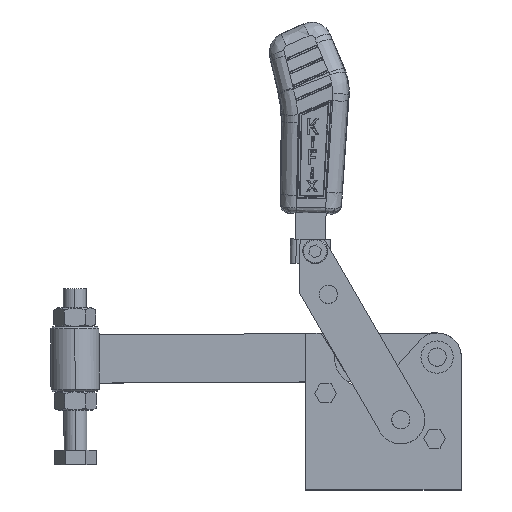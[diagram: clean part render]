
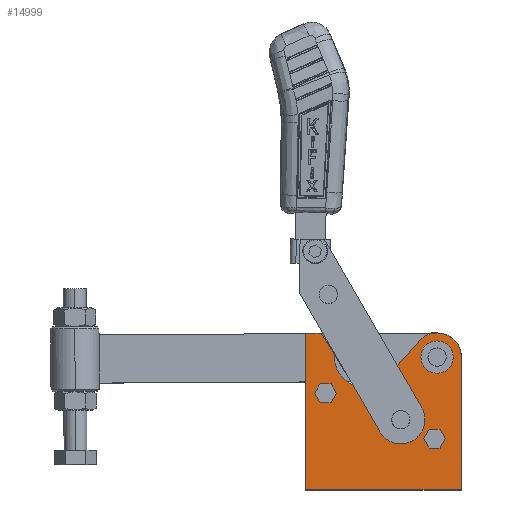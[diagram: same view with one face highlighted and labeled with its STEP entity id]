
A CAD part, top view. The second image highlights one B-rep face of the part: STEP entity #14999.
In plain terms, the highlighted planar face has unit normal (0, 0, 1).
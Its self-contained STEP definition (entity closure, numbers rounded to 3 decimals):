
#366 = CIRCLE ( 'NONE', #22885, 4.8 ) ;
#542 = DIRECTION ( 'NONE',  ( 1., 0., 0. ) ) ;
#810 = CARTESIAN_POINT ( 'NONE',  ( -33.32, 50.8, 0. ) ) ;
#1191 = AXIS2_PLACEMENT_3D ( 'NONE', #6595, #23624, #9072 ) ;
#2266 = ORIENTED_EDGE ( 'NONE', *, *, #2788, .F. ) ;
#2788 = EDGE_CURVE ( 'NONE', #28528, #9003, #16974, .T. ) ;
#2813 = VERTEX_POINT ( 'NONE', #18615 ) ;
#2977 = CARTESIAN_POINT ( 'NONE',  ( -40.75, 82.5, 0. ) ) ;
#3336 = EDGE_CURVE ( 'NONE', #13658, #30076, #20785, .T. ) ;
#3601 = CARTESIAN_POINT ( 'NONE',  ( -26.82, 50.8, 0. ) ) ;
#4448 = AXIS2_PLACEMENT_3D ( 'NONE', #19026, #4456, #21492 ) ;
#4456 = DIRECTION ( 'NONE',  ( 0., 0., 1. ) ) ;
#4719 = CARTESIAN_POINT ( 'NONE',  ( 9.5, 36.85, 0. ) ) ;
#5321 = PLANE ( 'NONE',  #5683 ) ;
#5366 = AXIS2_PLACEMENT_3D ( 'NONE', #21084, #6506, #23532 ) ;
#5418 = EDGE_LOOP ( 'NONE', ( #21822, #7134, #13513, #24304, #8222, #11439, #5809, #27750 ) ) ;
#5683 = AXIS2_PLACEMENT_3D ( 'NONE', #19900, #15141, #542 ) ;
#5772 = VERTEX_POINT ( 'NONE', #10043 ) ;
#5782 = DIRECTION ( 'NONE',  ( 0., 0., 1. ) ) ;
#5809 = ORIENTED_EDGE ( 'NONE', *, *, #29720, .T. ) ;
#6006 = ORIENTED_EDGE ( 'NONE', *, *, #22079, .F. ) ;
#6094 = LINE ( 'NONE', #24020, #11824 ) ;
#6291 = DIRECTION ( 'NONE',  ( 0., 0., 1. ) ) ;
#6506 = DIRECTION ( 'NONE',  ( 0., 0., 1. ) ) ;
#6595 = CARTESIAN_POINT ( 'NONE',  ( 28.55, 69.85, 0. ) ) ;
#6609 = CARTESIAN_POINT ( 'NONE',  ( 20.05, 69.85, 0. ) ) ;
#7032 = CARTESIAN_POINT ( 'NONE',  ( 28.55, 69.85, 0. ) ) ;
#7134 = ORIENTED_EDGE ( 'NONE', *, *, #7586, .T. ) ;
#7186 = DIRECTION ( 'NONE',  ( 1., 0., 0. ) ) ;
#7586 = EDGE_CURVE ( 'NONE', #28060, #30776, #31304, .T. ) ;
#7732 = VERTEX_POINT ( 'NONE', #6609 ) ;
#7904 = LINE ( 'NONE', #24558, #14383 ) ;
#7929 = LINE ( 'NONE', #8629, #20090 ) ;
#8076 = CARTESIAN_POINT ( 'NONE',  ( -9.55, 69.85, 0. ) ) ;
#8079 = CARTESIAN_POINT ( 'NONE',  ( -40.75, 0., 0. ) ) ;
#8222 = ORIENTED_EDGE ( 'NONE', *, *, #26795, .T. ) ;
#8273 = CARTESIAN_POINT ( 'NONE',  ( 14.3, 36.85, 0. ) ) ;
#8535 = CARTESIAN_POINT ( 'NONE',  ( 9.5, 36.85, 0. ) ) ;
#8629 = CARTESIAN_POINT ( 'NONE',  ( -41.25, 0., 0. ) ) ;
#8667 = DIRECTION ( 'NONE',  ( 0., 0., 1. ) ) ;
#9003 = VERTEX_POINT ( 'NONE', #15504 ) ;
#9035 = CARTESIAN_POINT ( 'NONE',  ( 19.023, 78.248, 0. ) ) ;
#9072 = DIRECTION ( 'NONE',  ( 1., 0., 0. ) ) ;
#9106 = FACE_OUTER_BOUND ( 'NONE', #5418, .T. ) ;
#9497 = DIRECTION ( 'NONE',  ( 1., 0., 0. ) ) ;
#9847 = FACE_BOUND ( 'NONE', #26025, .T. ) ;
#9952 = ORIENTED_EDGE ( 'NONE', *, *, #18792, .F. ) ;
#9991 = LINE ( 'NONE', #9035, #21418 ) ;
#10043 = CARTESIAN_POINT ( 'NONE',  ( -32.35, 82.5, 0. ) ) ;
#10163 = EDGE_LOOP ( 'NONE', ( #12785, #21225 ) ) ;
#10212 = EDGE_CURVE ( 'NONE', #9003, #28528, #16445, .T. ) ;
#10523 = DIRECTION ( 'NONE',  ( 1., 0., 0. ) ) ;
#10716 = CARTESIAN_POINT ( 'NONE',  ( -25.362, 71.317, 0. ) ) ;
#10990 = DIRECTION ( 'NONE',  ( 1., 0., 0. ) ) ;
#11084 = DIRECTION ( 'NONE',  ( 1., 0., 0. ) ) ;
#11414 = CARTESIAN_POINT ( 'NONE',  ( 19.023, 78.248, 0. ) ) ;
#11439 = ORIENTED_EDGE ( 'NONE', *, *, #15746, .T. ) ;
#11824 = VECTOR ( 'NONE', #14348, 1000. ) ;
#12111 = VERTEX_POINT ( 'NONE', #11414 ) ;
#12132 = DIRECTION ( 'NONE',  ( 0., 1., 0. ) ) ;
#12176 = AXIS2_PLACEMENT_3D ( 'NONE', #20880, #6291, #23312 ) ;
#12742 = VERTEX_POINT ( 'NONE', #30971 ) ;
#12785 = ORIENTED_EDGE ( 'NONE', *, *, #23468, .F. ) ;
#13297 = EDGE_CURVE ( 'NONE', #5772, #28060, #6094, .T. ) ;
#13326 = CARTESIAN_POINT ( 'NONE',  ( 4.7, 36.85, 0. ) ) ;
#13513 = ORIENTED_EDGE ( 'NONE', *, *, #21016, .T. ) ;
#13627 = AXIS2_PLACEMENT_3D ( 'NONE', #8076, #25089, #10523 ) ;
#13658 = VERTEX_POINT ( 'NONE', #13326 ) ;
#14348 = DIRECTION ( 'NONE',  ( -1., 0., 0. ) ) ;
#14383 = VECTOR ( 'NONE', #14787, 1000. ) ;
#14787 = DIRECTION ( 'NONE',  ( -0.53, 0.848, 0. ) ) ;
#14887 = CARTESIAN_POINT ( 'NONE',  ( 30.5, 27., 0. ) ) ;
#14999 = ADVANCED_FACE ( 'NONE', ( #28531, #9847, #22020, #15562, #9106 ), #5321, .T. ) ;
#15097 = EDGE_LOOP ( 'NONE', ( #2266, #16099 ) ) ;
#15137 = CIRCLE ( 'NONE', #12176, 3.25 ) ;
#15141 = DIRECTION ( 'NONE',  ( 0., 0., 1. ) ) ;
#15423 = CIRCLE ( 'NONE', #4448, 8.5 ) ;
#15504 = CARTESIAN_POINT ( 'NONE',  ( 24., 27., 0. ) ) ;
#15562 = FACE_BOUND ( 'NONE', #22281, .T. ) ;
#15746 = EDGE_CURVE ( 'NONE', #12111, #24368, #9991, .T. ) ;
#15880 = DIRECTION ( 'NONE',  ( 0., -1., 0. ) ) ;
#16015 = CARTESIAN_POINT ( 'NONE',  ( 2.362, 59.349, 0. ) ) ;
#16099 = ORIENTED_EDGE ( 'NONE', *, *, #10212, .F. ) ;
#16445 = CIRCLE ( 'NONE', #23896, 3.25 ) ;
#16804 = AXIS2_PLACEMENT_3D ( 'NONE', #7032, #24042, #9497 ) ;
#16974 = CIRCLE ( 'NONE', #30966, 3.25 ) ;
#17467 = VECTOR ( 'NONE', #12132, 1000. ) ;
#17523 = ORIENTED_EDGE ( 'NONE', *, *, #3336, .F. ) ;
#18179 = VERTEX_POINT ( 'NONE', #3601 ) ;
#18352 = VECTOR ( 'NONE', #15880, 1000. ) ;
#18615 = CARTESIAN_POINT ( 'NONE',  ( 41.25, 0., 0. ) ) ;
#18792 = EDGE_CURVE ( 'NONE', #30076, #13658, #366, .T. ) ;
#19026 = CARTESIAN_POINT ( 'NONE',  ( 28.55, 69.85, 0. ) ) ;
#19583 = CIRCLE ( 'NONE', #13627, 15.88 ) ;
#19900 = CARTESIAN_POINT ( 'NONE',  ( 28.55, 69.85, 0. ) ) ;
#19994 = EDGE_CURVE ( 'NONE', #2813, #12742, #23957, .T. ) ;
#20090 = VECTOR ( 'NONE', #11084, 1000. ) ;
#20198 = VERTEX_POINT ( 'NONE', #810 ) ;
#20358 = CARTESIAN_POINT ( 'NONE',  ( 27.25, 27., 0. ) ) ;
#20517 = CIRCLE ( 'NONE', #16804, 8.5 ) ;
#20785 = CIRCLE ( 'NONE', #31380, 4.8 ) ;
#20880 = CARTESIAN_POINT ( 'NONE',  ( -30.07, 50.8, 0. ) ) ;
#20881 = CARTESIAN_POINT ( 'NONE',  ( -40.75, 69.85, 0. ) ) ;
#21016 = EDGE_CURVE ( 'NONE', #30776, #2813, #7929, .T. ) ;
#21084 = CARTESIAN_POINT ( 'NONE',  ( -30.07, 50.8, 0. ) ) ;
#21123 = CIRCLE ( 'NONE', #1191, 12.7 ) ;
#21225 = ORIENTED_EDGE ( 'NONE', *, *, #21973, .F. ) ;
#21418 = VECTOR ( 'NONE', #28826, 1000. ) ;
#21492 = DIRECTION ( 'NONE',  ( 1., 0., 0. ) ) ;
#21533 = CARTESIAN_POINT ( 'NONE',  ( 37.05, 69.85, 0. ) ) ;
#21759 = DIRECTION ( 'NONE',  ( 0., 0., 1. ) ) ;
#21822 = ORIENTED_EDGE ( 'NONE', *, *, #13297, .T. ) ;
#21973 = EDGE_CURVE ( 'NONE', #20198, #18179, #22035, .T. ) ;
#22020 = FACE_BOUND ( 'NONE', #10163, .T. ) ;
#22035 = CIRCLE ( 'NONE', #5366, 3.25 ) ;
#22079 = EDGE_CURVE ( 'NONE', #7732, #27828, #20517, .T. ) ;
#22281 = EDGE_LOOP ( 'NONE', ( #9952, #17523 ) ) ;
#22800 = DIRECTION ( 'NONE',  ( 1., 0., 0. ) ) ;
#22885 = AXIS2_PLACEMENT_3D ( 'NONE', #4719, #21759, #7186 ) ;
#23216 = CARTESIAN_POINT ( 'NONE',  ( 27.25, 27., 0. ) ) ;
#23312 = DIRECTION ( 'NONE',  ( 1., 0., 0. ) ) ;
#23468 = EDGE_CURVE ( 'NONE', #18179, #20198, #15137, .T. ) ;
#23526 = EDGE_CURVE ( 'NONE', #30077, #5772, #7904, .T. ) ;
#23532 = DIRECTION ( 'NONE',  ( 1., 0., 0. ) ) ;
#23624 = DIRECTION ( 'NONE',  ( 0., 0., 1. ) ) ;
#23896 = AXIS2_PLACEMENT_3D ( 'NONE', #20358, #5782, #22800 ) ;
#23957 = LINE ( 'NONE', #29142, #17467 ) ;
#24020 = CARTESIAN_POINT ( 'NONE',  ( -32.35, 82.5, 0. ) ) ;
#24042 = DIRECTION ( 'NONE',  ( 0., 0., 1. ) ) ;
#24304 = ORIENTED_EDGE ( 'NONE', *, *, #19994, .T. ) ;
#24368 = VERTEX_POINT ( 'NONE', #16015 ) ;
#24558 = CARTESIAN_POINT ( 'NONE',  ( -25.362, 71.317, 0. ) ) ;
#25066 = ORIENTED_EDGE ( 'NONE', *, *, #26942, .F. ) ;
#25089 = DIRECTION ( 'NONE',  ( 0., 0., -1. ) ) ;
#25548 = DIRECTION ( 'NONE',  ( 0., 0., 1. ) ) ;
#25668 = DIRECTION ( 'NONE',  ( 1., 0., 0. ) ) ;
#26025 = EDGE_LOOP ( 'NONE', ( #25066, #6006 ) ) ;
#26795 = EDGE_CURVE ( 'NONE', #12742, #12111, #21123, .T. ) ;
#26942 = EDGE_CURVE ( 'NONE', #27828, #7732, #15423, .T. ) ;
#27750 = ORIENTED_EDGE ( 'NONE', *, *, #23526, .T. ) ;
#27828 = VERTEX_POINT ( 'NONE', #21533 ) ;
#28060 = VERTEX_POINT ( 'NONE', #2977 ) ;
#28528 = VERTEX_POINT ( 'NONE', #14887 ) ;
#28531 = FACE_BOUND ( 'NONE', #15097, .T. ) ;
#28826 = DIRECTION ( 'NONE',  ( -0.661, -0.75, 0. ) ) ;
#29142 = CARTESIAN_POINT ( 'NONE',  ( 41.25, 0., 0. ) ) ;
#29720 = EDGE_CURVE ( 'NONE', #24368, #30077, #19583, .T. ) ;
#30076 = VERTEX_POINT ( 'NONE', #8273 ) ;
#30077 = VERTEX_POINT ( 'NONE', #10716 ) ;
#30776 = VERTEX_POINT ( 'NONE', #8079 ) ;
#30966 = AXIS2_PLACEMENT_3D ( 'NONE', #23216, #8667, #25668 ) ;
#30971 = CARTESIAN_POINT ( 'NONE',  ( 41.25, 69.85, 0. ) ) ;
#31304 = LINE ( 'NONE', #20881, #18352 ) ;
#31380 = AXIS2_PLACEMENT_3D ( 'NONE', #8535, #25548, #10990 ) ;
